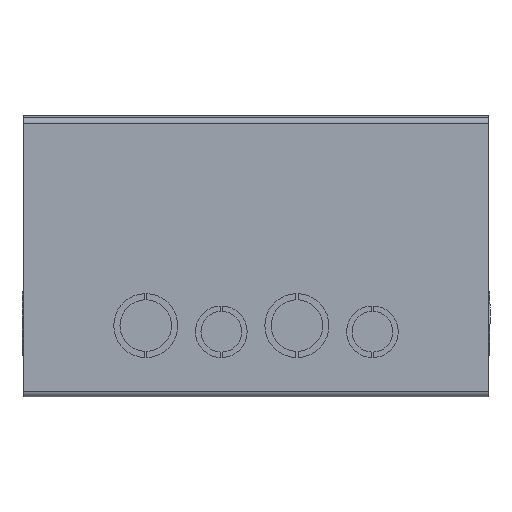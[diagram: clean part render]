
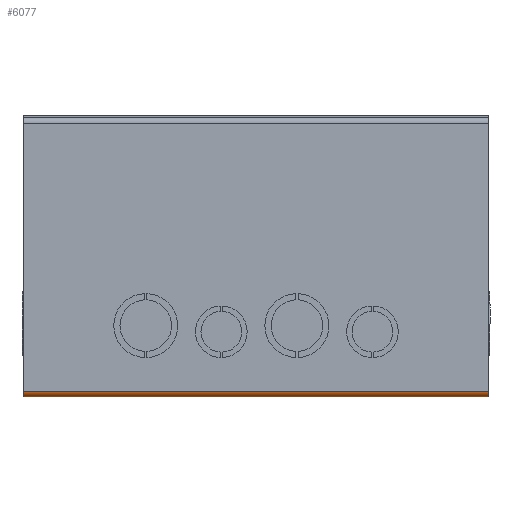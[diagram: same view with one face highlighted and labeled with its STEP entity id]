
A CAD part, left-side view. The second image highlights one B-rep face of the part: STEP entity #6077.
In plain terms, the highlighted cylindrical face has radius 2.921 mm (diameter 5.842 mm), a partial arc.
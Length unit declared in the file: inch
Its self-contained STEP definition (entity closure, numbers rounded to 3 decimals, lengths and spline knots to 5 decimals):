
#1412 = VERTEX_POINT ( 'NONE', #7738 ) ;
#1414 = EDGE_CURVE ( 'NONE', #1415, #1412, #7737, .T. ) ;
#1415 = VERTEX_POINT ( 'NONE', #7733 ) ;
#1549 = VERTEX_POINT ( 'NONE', #8189 ) ;
#2606 = EDGE_CURVE ( 'NONE', #1415, #5992, #10489, .T. ) ;
#2620 = EDGE_CURVE ( 'NONE', #1412, #1549, #10631, .T. ) ;
#5337 = DIRECTION ( 'NONE',  ( 0., -1., 0. ) ) ;
#5338 = CARTESIAN_POINT ( 'NONE',  ( -4., 5., 0.115 ) ) ;
#5339 = LINE ( 'NONE', #5338, #5460 ) ;
#5357 = CARTESIAN_POINT ( 'NONE',  ( -4., 5., 0.115 ) ) ;
#5460 = VECTOR ( 'NONE', #5337, 39.37008 ) ;
#5992 = VERTEX_POINT ( 'NONE', #5357 ) ;
#5994 = EDGE_CURVE ( 'NONE', #5992, #1549, #5339, .T. ) ;
#6077 = ADVANCED_FACE ( 'NONE', ( #6174 ), #6208, .T. ) ;
#6078 = EDGE_LOOP ( 'NONE', ( #6079, #6080, #6081, #6082 ) ) ;
#6079 = ORIENTED_EDGE ( 'NONE', *, *, #2620, .T. ) ;
#6080 = ORIENTED_EDGE ( 'NONE', *, *, #5994, .F. ) ;
#6081 = ORIENTED_EDGE ( 'NONE', *, *, #2606, .F. ) ;
#6082 = ORIENTED_EDGE ( 'NONE', *, *, #1414, .T. ) ;
#6167 = AXIS2_PLACEMENT_3D ( 'NONE', #6172, #6219, #6246 ) ;
#6172 = CARTESIAN_POINT ( 'NONE',  ( -3.885, 5., 0.115 ) ) ;
#6174 = FACE_OUTER_BOUND ( 'NONE', #6078, .T. ) ;
#6208 = CYLINDRICAL_SURFACE ( 'NONE', #6167, 0.115 ) ;
#6219 = DIRECTION ( 'NONE',  ( 0., -1., 0. ) ) ;
#6246 = DIRECTION ( 'NONE',  ( 0., 0., -1. ) ) ;
#7733 = CARTESIAN_POINT ( 'NONE',  ( -3.885, 5., 0. ) ) ;
#7734 = DIRECTION ( 'NONE',  ( 0., -1., 0. ) ) ;
#7735 = VECTOR ( 'NONE', #7734, 39.37008 ) ;
#7736 = CARTESIAN_POINT ( 'NONE',  ( -3.885, 5., 0. ) ) ;
#7737 = LINE ( 'NONE', #7736, #7735 ) ;
#7738 = CARTESIAN_POINT ( 'NONE',  ( -3.885, -5., 0. ) ) ;
#8189 = CARTESIAN_POINT ( 'NONE',  ( -4., -5., 0.115 ) ) ;
#10445 = CARTESIAN_POINT ( 'NONE',  ( -3.885, 5., 0.115 ) ) ;
#10452 = DIRECTION ( 'NONE',  ( 0., 0., -1. ) ) ;
#10453 = DIRECTION ( 'NONE',  ( 0., 1., 0. ) ) ;
#10488 = AXIS2_PLACEMENT_3D ( 'NONE', #10445, #10453, #10452 ) ;
#10489 = CIRCLE ( 'NONE', #10488, 0.115 ) ;
#10629 = DIRECTION ( 'NONE',  ( 0., 0., -1. ) ) ;
#10630 = DIRECTION ( 'NONE',  ( 0., 1., 0. ) ) ;
#10631 = CIRCLE ( 'NONE', #10639, 0.115 ) ;
#10638 = CARTESIAN_POINT ( 'NONE',  ( -3.885, -5., 0.115 ) ) ;
#10639 = AXIS2_PLACEMENT_3D ( 'NONE', #10638, #10630, #10629 ) ;
